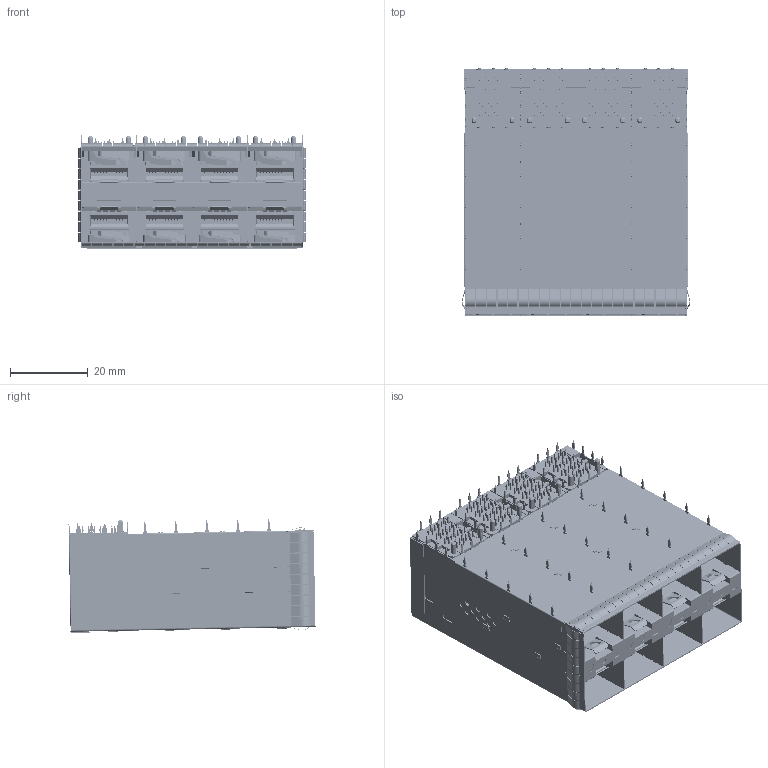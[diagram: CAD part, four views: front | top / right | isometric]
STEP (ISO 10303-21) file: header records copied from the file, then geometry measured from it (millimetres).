
FILE_DESCRIPTION((''),'2;1');
FILE_NAME('SFP28_2X4-3D-3LP-10732424F001','2025-02-27T',('czt12321'),(''),'CREO PARAMETRIC BY PTC INC, 2017480','CREO PARAMETRIC BY PTC INC, 2017480','');
FILE_SCHEMA(('CONFIG_CONTROL_DESIGN'));
Products named in the file (1): SFP28_2X4-3D-3LP-10732424F001
Bounding box: 58.81 x 63.74 x 29.41 mm (x, y, z)
Volume: 43209 mm3; surface area: 42270.8 mm2
Topology: 1 solids, 35 shells, 10094 faces, 28109 edges, 18322 vertices
Faces by surface type: plane 6187, cylinder 3771, bspline 120, cone 16
Entity records: 329979 total; most frequent: CARTESIAN_POINT 64211, ORIENTED_EDGE 56218, DIRECTION 55635, EDGE_CURVE 28109, VECTOR 19051, LINE 19051, VERTEX_POINT 18322, AXIS2_PLACEMENT_3D 18292
